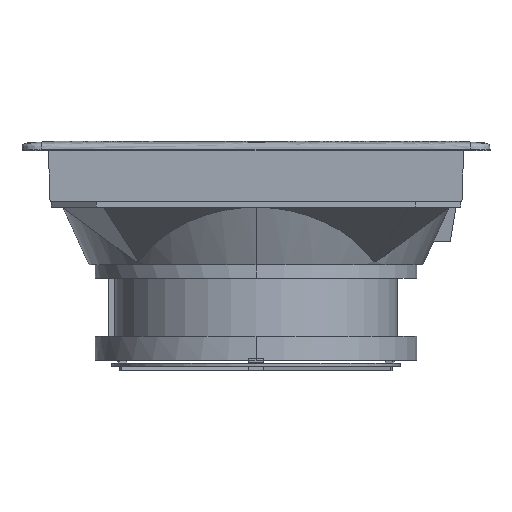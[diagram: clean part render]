
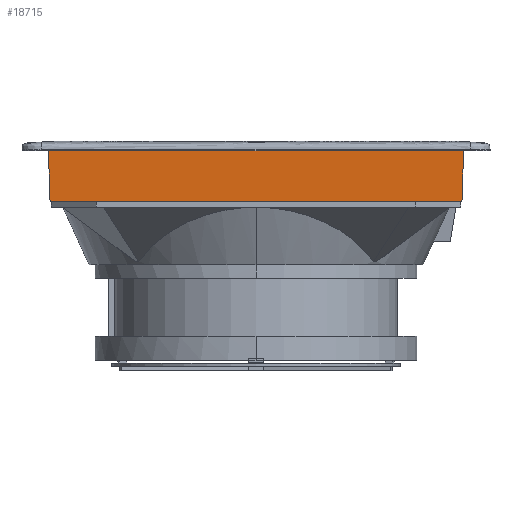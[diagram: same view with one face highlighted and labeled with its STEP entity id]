
A CAD part, front view. The second image highlights one B-rep face of the part: STEP entity #18715.
In plain terms, the highlighted planar face has unit normal (0, -1, -0.033).
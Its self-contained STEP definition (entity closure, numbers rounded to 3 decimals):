
#44 = VECTOR ( 'NONE', #28920, 1000. ) ;
#2584 = EDGE_CURVE ( 'NONE', #33608, #6723, #20644, .T. ) ;
#3262 = VERTEX_POINT ( 'NONE', #29397 ) ;
#3500 = DIRECTION ( 'NONE',  ( 1., 0., 0. ) ) ;
#4683 = DIRECTION ( 'NONE',  ( 0., 0.033, -0.999 ) ) ;
#4964 = ORIENTED_EDGE ( 'NONE', *, *, #19321, .F. ) ;
#5118 = CARTESIAN_POINT ( 'NONE',  ( -110.915, -110.915, 27. ) ) ;
#5483 = VECTOR ( 'NONE', #6751, 1000. ) ;
#6723 = VERTEX_POINT ( 'NONE', #25190 ) ;
#6751 = DIRECTION ( 'NONE',  ( -0.033, -0.033, 0.999 ) ) ;
#7472 = CARTESIAN_POINT ( 'NONE',  ( -110.915, -110.915, 27. ) ) ;
#9051 = VECTOR ( 'NONE', #26241, 1000. ) ;
#12815 = LINE ( 'NONE', #33840, #44 ) ;
#14293 = VERTEX_POINT ( 'NONE', #5118 ) ;
#15361 = DIRECTION ( 'NONE',  ( 0., -0.999, -0.033 ) ) ;
#15573 = EDGE_CURVE ( 'NONE', #6723, #3262, #12815, .T. ) ;
#18152 = FACE_OUTER_BOUND ( 'NONE', #31554, .T. ) ;
#18715 = ADVANCED_FACE ( 'NONE', ( #18152 ), #20601, .T. ) ;
#19321 = EDGE_CURVE ( 'NONE', #14293, #3262, #22062, .T. ) ;
#19390 = VECTOR ( 'NONE', #3500, 1000. ) ;
#20601 = PLANE ( 'NONE',  #27264 ) ;
#20644 = LINE ( 'NONE', #31334, #9051 ) ;
#22062 = LINE ( 'NONE', #24862, #19390 ) ;
#22481 = LINE ( 'NONE', #25291, #5483 ) ;
#22944 = ORIENTED_EDGE ( 'NONE', *, *, #31965, .F. ) ;
#24862 = CARTESIAN_POINT ( 'NONE',  ( 115., -110.915, 27. ) ) ;
#25190 = CARTESIAN_POINT ( 'NONE',  ( 110.019, -110.019, -0.005 ) ) ;
#25249 = CARTESIAN_POINT ( 'NONE',  ( -110.019, -110.019, -0.005 ) ) ;
#25291 = CARTESIAN_POINT ( 'NONE',  ( -110.671, -110.671, 19.657 ) ) ;
#26241 = DIRECTION ( 'NONE',  ( 1., 0., 0. ) ) ;
#27264 = AXIS2_PLACEMENT_3D ( 'NONE', #7472, #15361, #4683 ) ;
#28920 = DIRECTION ( 'NONE',  ( 0.033, -0.033, 0.999 ) ) ;
#29397 = CARTESIAN_POINT ( 'NONE',  ( 110.915, -110.915, 27. ) ) ;
#31236 = ORIENTED_EDGE ( 'NONE', *, *, #15573, .T. ) ;
#31334 = CARTESIAN_POINT ( 'NONE',  ( 0., -110.019, -0.005 ) ) ;
#31554 = EDGE_LOOP ( 'NONE', ( #4964, #22944, #32657, #31236 ) ) ;
#31965 = EDGE_CURVE ( 'NONE', #33608, #14293, #22481, .T. ) ;
#32657 = ORIENTED_EDGE ( 'NONE', *, *, #2584, .T. ) ;
#33608 = VERTEX_POINT ( 'NONE', #25249 ) ;
#33840 = CARTESIAN_POINT ( 'NONE',  ( 110.671, -110.671, 19.657 ) ) ;
